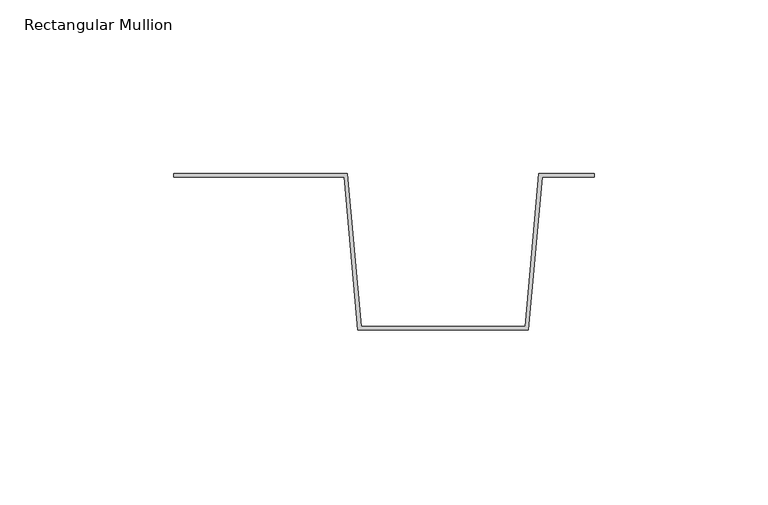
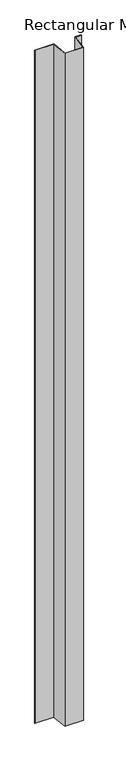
"""IFC4 building model written with IfcOpenShell, lengths in millimetres: member geometry, Rectangular Mullion : CD_NINELINE_Batten Intermediate w Extension."""

from ifc_helpers import new_model, si_unit, frame, origin, place, context, project, spatial, polyline, outline, extrude, source, transform, mapped, element, save


def rectangular_mullion_4c5af404(model_context):
    return source(origin(), model_context, "Body", "SweptSolid", [
        extrude(outline(polyline([(0.0, 0.0), (49.9132146, 0.0), (53.9132146, -44.0), (101.0867854, -44.0), (105.0867854, 0.0), (121.0, 0.0), (121.0, -1.0), (106.0, -1.0), (102.0, -45.0), (53.0, -45.0), (49.0, -1.0), (0.0, -1.0), (0.0, 0.0)])), frame((0.0, 0.0, -1855.0), z_axis=(0.0, 0.0, 1.0), x_axis=(1.0, 0.0, 0.0)), (0.0, 0.0, 1.0), 1855.0),
    ])


if __name__ == "__main__":
    model = new_model("IFC4")
    model_context = context("Model", 3, world=origin())
    ifc_project = project(units=[si_unit("LENGTHUNIT", "METRE", prefix="MILLI")], contexts=[model_context])
    site = spatial("IfcSite", under=ifc_project)
    building = spatial("IfcBuilding", under=site)
    placement = place(None, origin())
    rectangular_mullion_shape = rectangular_mullion_4c5af404(model_context)
    element("IfcMember", 1, ObjectType="Rectangular Mullion : CD_NINELINE_Batten Intermediate w Extension", at=placement, inside=building, context=model_context, shape_type="MappedRepresentation", body=[
        mapped(rectangular_mullion_shape, transform((0.0, 0.0, 0.0), x_axis=(1.0, 0.0, 0.0), y_axis=(0.0, 1.0, 0.0), z_axis=(0.0, 0.0, 1.0))),
    ])
    save(model, "model.ifc")
